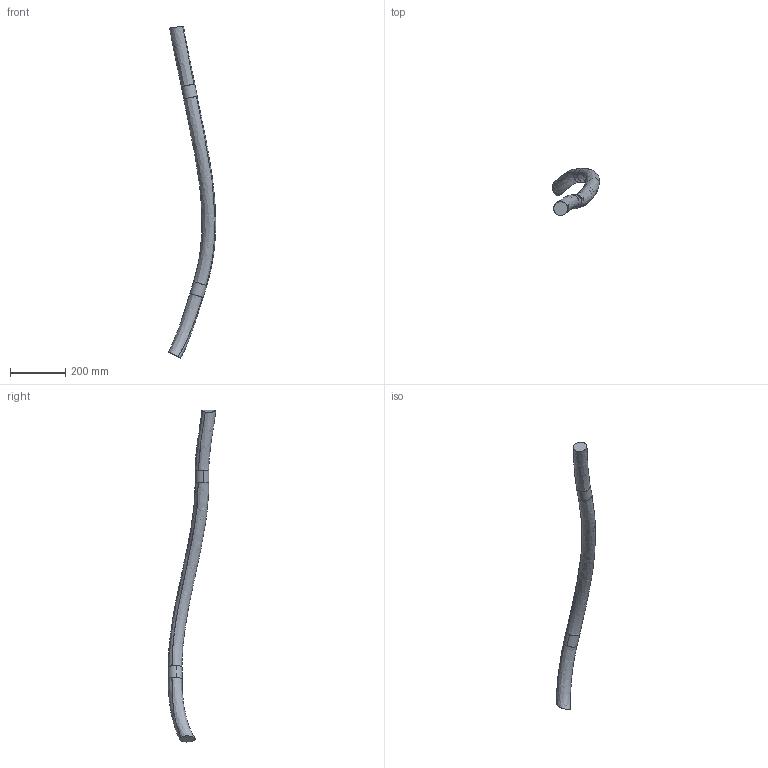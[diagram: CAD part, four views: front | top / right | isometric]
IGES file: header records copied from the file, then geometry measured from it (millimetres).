
Start section: SolidWorks IGES file using analytic representation for surfaces
Global section: file name: C:\Data\SAP_DOC\IRB6740_lightweight\6740\IRB6740-MH3_240kg-320_OC_01_SW_J\IRB6740-MH3_240kg-320_OC_01_IGES_J\IRB6740-MH3_240kg-320_OC_00_LINK02_CABLE.igs; native system: SolidWorks 2024; preprocessor: SolidWorks 2024; author: SEJAOLS6; date: 260513.071550; units: millimetre
Bounding box: 170.69 x 171.62 x 1197.23 mm (x, y, z)
Surface area: 197120 mm2 (no closed solid volume)
Topology: 0 solids, 0 shells, 12 faces, 272 edges, 272 vertices
Faces by surface type: bspline 8, revolution 4
